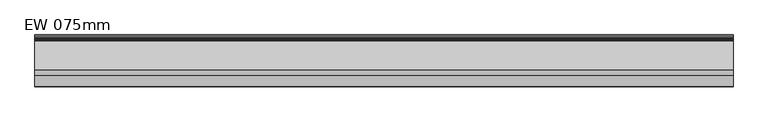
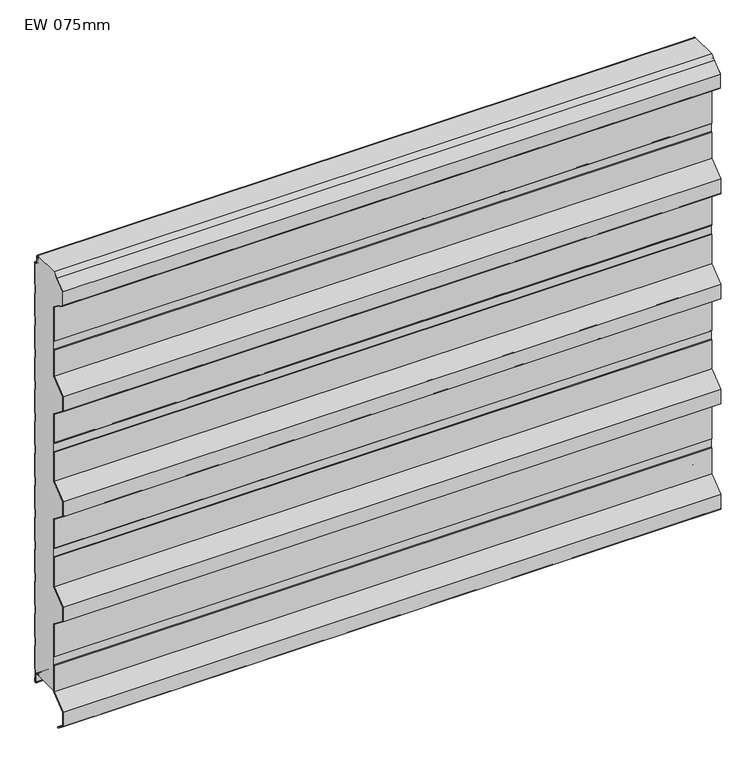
"""IFC4 building model written with IfcOpenShell, lengths in millimetres: plate geometry, KIP-MEX-KC-R19-CP-EW-SL : EW 075mm."""

from ifc_helpers import new_model, si_unit, point, frame, frame_2d, origin, place, context, project, spatial, polyline, circle_curve, trimmed, segment, composite_curve, outline, extrude, source, transform, mapped, element, save
from ifc_brep_helpers import plane_surface, cylinder_surface, revolved_surface, advanced_brep


def ew_075mm_fef6cdc1(model_context):
    return source(origin(), model_context, "Body", "SolidModel", [
        advanced_brep(
        [(-740.0, -85.0327477, 989.051258), (-740.0, -80.6292245, 991.4166419), (-740.0, -81.1011177, 992.2982989), (-740.0, -85.5823669, 989.8911639), (-740.0, -74.7971296, 998.3652789), (-740.0, -11.2514375, 998.3666923), (-740.0, -13.6351997, 996.0840542), (-740.0, -14.1562355, 990.2938452), (-740.0, -13.178913, 990.2059002), (-740.0, -12.6629632, 995.9395891), (-740.0, -10.8760369, 997.3642752), (-740.0, -8.8936988, 995.9342793), (-740.0, -7.4885937, 979.8720443), (-740.0, -4.5000049, 977.1334803), (-740.0, -1.0, 977.1334803), (-740.0, -1.0, 924.1786391), (-740.0, -2.2002307, 922.7930062), (-740.0, -2.2002307, 903.4178399), (-740.0, -1.0, 902.0322069), (-740.0, -1.0, 847.9787915), (-740.0, -2.2002307, 846.5931586), (-740.0, -2.2002307, 827.2179923), (-740.0, -1.0, 825.8323593), (-740.0, -1.0, 771.7789439), (-740.0, -2.2002307, 770.393311), (-740.0, -2.2002307, 751.0181447), (-740.0, -1.0, 749.6325117), (-740.0, -1.0, 695.5790963), (-740.0, -2.2002307, 694.1934634), (-740.0, -2.2002307, 674.8182971), (-740.0, -1.0, 673.4326641), (-740.0, -1.0, 619.3792487), (-740.0, -2.2002307, 617.9936158), (-740.0, -2.2002307, 598.6184495), (-740.0, -1.0, 597.2328165), (-740.0, -1.0, 543.1794011), (-740.0, -2.2002307, 541.7937682), (-740.0, -2.2002307, 522.4186019), (-740.0, -1.0, 521.0329689), (-740.0, -1.0, 466.9795535), (-740.0, -2.2002307, 465.5939206), (-740.0, -2.2002307, 446.2187543), (-740.0, -1.0, 444.8331213), (-740.0, -1.0, 390.7797059), (-740.0, -2.2002307, 389.394073), (-740.0, -2.2002307, 370.0189067), (-740.0, -1.0, 368.6332737), (-740.0, -1.0, 314.5798583), (-740.0, -2.2002307, 313.1942254), (-740.0, -2.2002307, 293.8190591), (-740.0, -1.0, 292.4334261), (-740.0, -1.0, 238.3800107), (-740.0, -2.2002307, 236.9943778), (-740.0, -2.2002307, 217.6192115), (-740.0, -1.0, 216.2335785), (-740.0, -1.0, 162.1801631), (-740.0, -2.2002307, 160.7945302), (-740.0, -2.2002307, 141.4193639), (-740.0, -1.0, 140.0337309), (-740.0, -1.0, 85.9803155), (-740.0, -2.2002307, 84.5946826), (-740.0, -2.2002307, 65.2195163), (-740.0, -1.0, 63.8338833), (-740.0, -1.0, 9.7804679), (-740.0, -2.2002307, 8.394835), (-740.0, -2.2002307, -10.9803313), (-740.0, -0.9999916, -12.365974), (-740.0, -0.9999916, -20.8675386), (-740.0, -2.4999198, -20.8675386), (-740.0, -4.9998241, -18.3676343), (-740.0, -4.9998241, -0.3670493), (-740.0, -7.998082, 2.6333088), (-740.0, -11.5943952, 2.6333088), (-740.0, -13.0725686, 3.8746028), (-740.0, -13.6943971, 7.4169376), (-740.0, -14.6793372, 7.2440392), (-740.0, -14.0575086, 3.7017037), (-740.0, -11.5958694, 1.6333077), (-740.0, -74.0, 1.6333077), (-740.0, -74.0, 62.1559418), (-740.0, -72.9999989, 63.5702249), (-740.0, -72.9999989, 82.7777465), (-740.0, -74.0, 84.1920296), (-740.0, -74.0, 160.6910066), (-740.0, -109.000038, 188.1910365), (-740.0, -109.000038, 222.2190039), (-740.0, -74.0, 249.7190337), (-740.0, -74.0, 319.1871119), (-740.0, -72.9999989, 320.601395), (-740.0, -72.9999989, 339.8089167), (-740.0, -74.0, 341.2231997), (-740.0, -74.0, 410.6912779), (-740.0, -109.000038, 438.1913078), (-740.0, -109.000038, 472.2192752), (-740.0, -74.0, 499.719305), (-740.0, -74.0, 569.1090864), (-740.0, -72.9999989, 570.1732653), (-740.0, -72.9999989, 589.809188), (-740.0, -74.0, 591.2234711), (-740.0, -74.0, 660.6915492), (-740.0, -109.000038, 688.1915791), (-740.0, -109.000038, 722.2195465), (-740.0, -74.0, 749.7195763), (-740.0, -74.0, 812.1567557), (-740.0, -72.9999989, 813.5710388), (-740.0, -72.9999989, 832.7785605), (-740.0, -74.0, 834.1928435), (-740.0, -74.0, 914.6918249), (-740.0, -94.3814311, 930.7058064), (-740.0, -98.199617, 930.7058064), (-740.0, -108.0000369, 938.4061363), (-740.0, -108.0000369, 971.0055308), (740.0, -85.0327477, 989.051258), (740.0, -108.0000369, 971.0055308), (740.0, -108.0000369, 938.4061363), (740.0, -98.199617, 930.7058064), (740.0, -94.3814311, 930.7058064), (740.0, -74.0, 914.6918249), (740.0, -74.0, 834.1928435), (740.0, -72.9999989, 832.7785605), (740.0, -72.9999989, 813.5710388), (740.0, -74.0, 812.1567557), (740.0, -74.0, 749.7195763), (740.0, -109.000038, 722.2195465), (740.0, -109.000038, 688.1915791), (740.0, -74.0, 660.6915492), (740.0, -74.0, 591.2234711), (740.0, -72.9999989, 589.809188), (740.0, -72.9999989, 570.1732653), (740.0, -74.0, 569.1090864), (740.0, -74.0, 499.719305), (740.0, -109.000038, 472.2192752), (740.0, -109.000038, 438.1913078), (740.0, -74.0, 410.6912779), (740.0, -74.0, 341.2231997), (740.0, -72.9999989, 339.8089167), (740.0, -72.9999989, 320.601395), (740.0, -74.0, 319.1871119), (740.0, -74.0, 249.7190337), (740.0, -109.000038, 222.2190039), (740.0, -109.000038, 188.1910365), (740.0, -74.0, 160.6910066), (740.0, -74.0, 84.1920296), (740.0, -72.9999989, 82.7777465), (740.0, -72.9999989, 63.5702249), (740.0, -74.0, 62.1559418), (740.0, -74.0, 1.6333077), (740.0, -11.5958694, 1.6333077), (740.0, -14.0575086, 3.7017037), (740.0, -14.6793372, 7.2440392), (740.0, -13.6943971, 7.4169376), (740.0, -13.0725686, 3.8746028), (740.0, -11.5943952, 2.6333088), (740.0, -7.998082, 2.6333088), (740.0, -4.9998241, -0.3670493), (740.0, -4.9998241, -18.3676343), (740.0, -2.4999198, -20.8675386), (740.0, -0.9999916, -20.8675386), (740.0, -0.9999916, -12.365974), (740.0, -2.2002307, -10.9803313), (740.0, -2.2002307, 8.394835), (740.0, -1.0, 9.7804679), (740.0, -1.0, 63.8338833), (740.0, -2.2002307, 65.2195163), (740.0, -2.2002307, 84.5946826), (740.0, -1.0, 85.9803155), (740.0, -1.0, 140.0337309), (740.0, -2.2002307, 141.4193639), (740.0, -2.2002307, 160.7945302), (740.0, -1.0, 162.1801631), (740.0, -1.0, 216.2335785), (740.0, -2.2002307, 217.6192115), (740.0, -2.2002307, 236.9943778), (740.0, -1.0, 238.3800107), (740.0, -1.0, 292.4334261), (740.0, -2.2002307, 293.8190591), (740.0, -2.2002307, 313.1942254), (740.0, -1.0, 314.5798583), (740.0, -1.0, 368.6332737), (740.0, -2.2002307, 370.0189067), (740.0, -2.2002307, 389.394073), (740.0, -1.0, 390.7797059), (740.0, -1.0, 444.8331213), (740.0, -2.2002307, 446.2187543), (740.0, -2.2002307, 465.5939206), (740.0, -1.0, 466.9795535), (740.0, -1.0, 521.0329689), (740.0, -2.2002307, 522.4186019), (740.0, -2.2002307, 541.7937682), (740.0, -1.0, 543.1794011), (740.0, -1.0, 597.2328165), (740.0, -2.2002307, 598.6184495), (740.0, -2.2002307, 617.9936158), (740.0, -1.0, 619.3792487), (740.0, -1.0, 673.4326641), (740.0, -2.2002307, 674.8182971), (740.0, -2.2002307, 694.1934634), (740.0, -1.0, 695.5790963), (740.0, -1.0, 749.6325117), (740.0, -2.2002307, 751.0181447), (740.0, -2.2002307, 770.393311), (740.0, -1.0, 771.7789439), (740.0, -1.0, 825.8323593), (740.0, -2.2002307, 827.2179923), (740.0, -2.2002307, 846.5931586), (740.0, -1.0, 847.9787915), (740.0, -1.0, 902.0322069), (740.0, -2.2002307, 903.4178399), (740.0, -2.2002307, 922.7930062), (740.0, -1.0, 924.1786391), (740.0, -1.0, 977.1334803), (740.0, -4.5000049, 977.1334803), (740.0, -7.4885937, 979.8720443), (740.0, -8.8936988, 995.9342793), (740.0, -10.8760369, 997.3642752), (740.0, -12.6629632, 995.9395891), (740.0, -13.178913, 990.2059002), (740.0, -14.1562355, 990.2938452), (740.0, -13.6351997, 996.0840542), (740.0, -11.2514375, 998.3666923), (740.0, -74.7971296, 998.3652789), (740.0, -85.5823669, 989.8911639), (740.0, -81.1011177, 992.2982989), (740.0, -80.6292245, 991.4166419)],
        [
            (0, 1),
            (1, 2),
            (2, 3),
            (3, 4),
            (4, 5),
            (5, 6, circle_curve(frame((-740.0, -10.8441969, 995.5554081), z_axis=(1.0, 0.0, 0.0), x_axis=(0.0, -1.0, 0.0)), 2.8406273)),
            (6, 7),
            (7, 8),
            (8, 9),
            (9, 10, circle_curve(frame((-740.0, -10.8991179, 995.560247), z_axis=(-1.0, 0.0, 0.0), x_axis=(0.0, -1.0, 0.0)), 1.8041759)),
            (10, 11, circle_curve(frame((-740.0, -10.6928483, 995.5292107), z_axis=(-1.0, 0.0, 0.0), x_axis=(0.0, -1.0, 0.0)), 1.8441854)),
            (11, 12),
            (12, 13, circle_curve(frame((-740.0, -4.5000049, 980.1334825), z_axis=(1.0, 0.0, 0.0), x_axis=(0.0, -1.0, 0.0)), 3.0000022)),
            (13, 14),
            (14, 15),
            (15, 16),
            (16, 17),
            (17, 18),
            (18, 19),
            (19, 20),
            (20, 21),
            (21, 22),
            (22, 23),
            (23, 24),
            (24, 25),
            (25, 26),
            (26, 27),
            (27, 28),
            (28, 29),
            (29, 30),
            (30, 31),
            (31, 32),
            (32, 33),
            (33, 34),
            (34, 35),
            (35, 36),
            (36, 37),
            (37, 38),
            (38, 39),
            (39, 40),
            (40, 41),
            (41, 42),
            (42, 43),
            (43, 44),
            (44, 45),
            (45, 46),
            (46, 47),
            (47, 48),
            (48, 49),
            (49, 50),
            (50, 51),
            (51, 52),
            (52, 53),
            (53, 54),
            (54, 55),
            (55, 56),
            (56, 57),
            (57, 58),
            (58, 59),
            (59, 60),
            (60, 61),
            (61, 62),
            (62, 63),
            (63, 64),
            (64, 65),
            (65, 66),
            (66, 67),
            (67, 68),
            (68, 69, circle_curve(frame((-740.0, -2.4999198, -18.3676343), z_axis=(-1.0, 0.0, 0.0), x_axis=(0.0, -1.0, 0.0)), 2.4999043)),
            (69, 70),
            (70, 71, circle_curve(frame((-740.0, -8.0001829, -0.3670493), z_axis=(1.0, 0.0, 0.0), x_axis=(0.0, -1.0, 0.0)), 3.0003589)),
            (71, 72),
            (72, 73, circle_curve(frame((-740.0, -11.5943952, 4.1340843), z_axis=(-1.0, 0.0, 0.0), x_axis=(0.0, -1.0, 0.0)), 1.5007755)),
            (73, 74),
            (74, 75),
            (75, 76),
            (76, 77, circle_curve(frame((-740.0, -11.5943948, 4.1340836), z_axis=(1.0, 0.0, 0.0), x_axis=(0.0, -1.0, 0.0)), 2.5007762)),
            (77, 78),
            (78, 79),
            (79, 80),
            (80, 81),
            (81, 82),
            (82, 83),
            (83, 84),
            (84, 85),
            (85, 86),
            (86, 87),
            (87, 88),
            (88, 89),
            (89, 90),
            (90, 91),
            (91, 92),
            (92, 93),
            (93, 94),
            (94, 95),
            (95, 96),
            (96, 97),
            (97, 98),
            (98, 99),
            (99, 100),
            (100, 101),
            (101, 102),
            (102, 103),
            (103, 104),
            (104, 105),
            (105, 106),
            (106, 107),
            (107, 108),
            (108, 109),
            (109, 110),
            (110, 111),
            (111, 0),
            (112, 113),
            (113, 114),
            (114, 115),
            (115, 116),
            (116, 117),
            (117, 118),
            (118, 119),
            (119, 120),
            (120, 121),
            (121, 122),
            (122, 123),
            (123, 124),
            (124, 125),
            (125, 126),
            (126, 127),
            (127, 128),
            (128, 129),
            (129, 130),
            (130, 131),
            (131, 132),
            (132, 133),
            (133, 134),
            (134, 135),
            (135, 136),
            (136, 137),
            (137, 138),
            (138, 139),
            (139, 140),
            (140, 141),
            (141, 142),
            (142, 143),
            (143, 144),
            (144, 145),
            (145, 146),
            (146, 147),
            (147, 148, circle_curve(frame((740.0, -11.5943948, 4.1340836), z_axis=(-1.0, 0.0, 0.0), x_axis=(0.0, -1.0, 0.0)), 2.5007762)),
            (148, 149),
            (149, 150),
            (150, 151),
            (151, 152, circle_curve(frame((740.0, -11.5943952, 4.1340843), z_axis=(1.0, 0.0, 0.0), x_axis=(0.0, -1.0, 0.0)), 1.5007755)),
            (152, 153),
            (153, 154, circle_curve(frame((740.0, -8.0001829, -0.3670493), z_axis=(-1.0, 0.0, 0.0), x_axis=(0.0, -1.0, 0.0)), 3.0003589)),
            (154, 155),
            (155, 156, circle_curve(frame((740.0, -2.4999198, -18.3676343), z_axis=(1.0, 0.0, 0.0), x_axis=(0.0, -1.0, 0.0)), 2.4999043)),
            (156, 157),
            (157, 158),
            (158, 159),
            (159, 160),
            (160, 161),
            (161, 162),
            (162, 163),
            (163, 164),
            (164, 165),
            (165, 166),
            (166, 167),
            (167, 168),
            (168, 169),
            (169, 170),
            (170, 171),
            (171, 172),
            (172, 173),
            (173, 174),
            (174, 175),
            (175, 176),
            (176, 177),
            (177, 178),
            (178, 179),
            (179, 180),
            (180, 181),
            (181, 182),
            (182, 183),
            (183, 184),
            (184, 185),
            (185, 186),
            (186, 187),
            (187, 188),
            (188, 189),
            (189, 190),
            (190, 191),
            (191, 192),
            (192, 193),
            (193, 194),
            (194, 195),
            (195, 196),
            (196, 197),
            (197, 198),
            (198, 199),
            (199, 200),
            (200, 201),
            (201, 202),
            (202, 203),
            (203, 204),
            (204, 205),
            (205, 206),
            (206, 207),
            (207, 208),
            (208, 209),
            (209, 210),
            (210, 211),
            (211, 212, circle_curve(frame((740.0, -4.5000049, 980.1334825), z_axis=(-1.0, 0.0, 0.0), x_axis=(0.0, -1.0, 0.0)), 3.0000022)),
            (212, 213),
            (213, 214, circle_curve(frame((740.0, -10.6928483, 995.5292107), z_axis=(1.0, 0.0, 0.0), x_axis=(0.0, -1.0, 0.0)), 1.8441854)),
            (214, 215, circle_curve(frame((740.0, -10.8991179, 995.560247), z_axis=(1.0, 0.0, 0.0), x_axis=(0.0, -1.0, 0.0)), 1.8041759)),
            (215, 216),
            (216, 217),
            (217, 218),
            (218, 219, circle_curve(frame((740.0, -10.8441969, 995.5554081), z_axis=(-1.0, 0.0, 0.0), x_axis=(0.0, -1.0, 0.0)), 2.8406273)),
            (219, 220),
            (220, 221),
            (221, 222),
            (222, 223),
            (223, 112),
            (0, 112),
            (223, 1),
            (111, 113),
            (110, 114),
            (109, 115),
            (108, 116),
            (107, 117),
            (106, 118),
            (105, 119),
            (104, 120),
            (103, 121),
            (102, 122),
            (101, 123),
            (100, 124),
            (99, 125),
            (98, 126),
            (97, 127),
            (96, 128),
            (95, 129),
            (94, 130),
            (93, 131),
            (92, 132),
            (91, 133),
            (90, 134),
            (89, 135),
            (88, 136),
            (87, 137),
            (86, 138),
            (85, 139),
            (84, 140),
            (83, 141),
            (82, 142),
            (81, 143),
            (80, 144),
            (79, 145),
            (78, 146),
            (2, 222),
            (221, 3),
            (220, 4),
            (219, 5),
            (77, 147),
            (73, 151),
            (150, 74),
            (72, 152),
            (71, 153),
            (70, 154),
            (69, 155),
            (68, 156),
            (67, 157),
            (13, 211),
            (210, 14),
            (12, 212),
            (11, 213),
            (10, 214),
            (9, 215),
            (8, 216),
            (7, 217),
            (6, 218),
            (76, 148),
            (75, 149),
            (66, 158),
            (65, 159),
            (64, 160),
            (63, 161),
            (62, 162),
            (61, 163),
            (60, 164),
            (59, 165),
            (58, 166),
            (57, 167),
            (56, 168),
            (55, 169),
            (54, 170),
            (53, 171),
            (52, 172),
            (51, 173),
            (50, 174),
            (49, 175),
            (48, 176),
            (47, 177),
            (46, 178),
            (45, 179),
            (44, 180),
            (43, 181),
            (42, 182),
            (41, 183),
            (40, 184),
            (39, 185),
            (38, 186),
            (37, 187),
            (36, 188),
            (35, 189),
            (34, 190),
            (33, 191),
            (32, 192),
            (31, 193),
            (30, 194),
            (29, 195),
            (28, 196),
            (27, 197),
            (26, 198),
            (25, 199),
            (24, 200),
            (23, 201),
            (22, 202),
            (21, 203),
            (20, 204),
            (19, 205),
            (18, 206),
            (17, 207),
            (16, 208),
            (15, 209),
        ],
        [
            plane_surface(frame((-740.0, -74.0, 500.0), z_axis=(-1.0, 0.0, 0.0), x_axis=(0.0, -1.0, 0.0))),
            plane_surface(frame((740.0, -74.0, 500.0), z_axis=(1.0, 0.0, 0.0), x_axis=(0.0, -1.0, 0.0))),
            plane_surface(frame((-740.0, -80.6292245, 991.4166419), z_axis=(0.0, -0.4732087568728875, 0.8809503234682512), x_axis=(1.0, 0.0, 0.0))),
            plane_surface(frame((-740.0, -85.0327477, 989.051258), z_axis=(0.0, -0.6178215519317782, 0.7863183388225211), x_axis=(1.0, 0.0, 0.0))),
            plane_surface(frame((-740.0, -108.0000369, 971.0055308), z_axis=(0.0, -1.0, 0.0), x_axis=(1.0, 0.0, 0.0))),
            plane_surface(frame((-740.0, -108.0000369, 938.4061363), z_axis=(0.0, -0.6178215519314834, -0.7863183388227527), x_axis=(1.0, 0.0, 0.0))),
            plane_surface(frame((-740.0, -98.199617, 930.7058064), z_axis=(0.0, 0.0, -1.0), x_axis=(1.0, 0.0, 0.0))),
            plane_surface(frame((-740.0, -94.3814311, 930.7058064), z_axis=(0.0, -0.6178215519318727, -0.786318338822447), x_axis=(1.0, 0.0, 0.0))),
            plane_surface(frame((-740.0, -74.0, 914.6918249), z_axis=(0.0, -1.0, 0.0), x_axis=(1.0, 0.0, 0.0))),
            plane_surface(frame((-740.0, -74.0, 834.1928435), z_axis=(0.0, -0.8165096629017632, -0.577331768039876), x_axis=(1.0, 0.0, 0.0))),
            plane_surface(frame((-740.0, -72.9999989, 832.7785605), z_axis=(0.0, -1.0, 0.0), x_axis=(1.0, 0.0, 0.0))),
            plane_surface(frame((-740.0, -72.9999989, 813.5710388), z_axis=(0.0, -0.816509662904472, 0.5773317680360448), x_axis=(1.0, 0.0, 0.0))),
            plane_surface(frame((-740.0, -74.0, 812.1567557), z_axis=(0.0, -1.0, 0.0), x_axis=(1.0, 0.0, 0.0))),
            plane_surface(frame((-740.0, -74.0, 749.7195763), z_axis=(0.0, -0.6178215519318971, 0.7863183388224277), x_axis=(1.0, 0.0, 0.0))),
            plane_surface(frame((-740.0, -109.000038, 722.2195465), z_axis=(0.0, -1.0, 0.0), x_axis=(1.0, 0.0, 0.0))),
            plane_surface(frame((-740.0, -109.000038, 688.1915791), z_axis=(0.0, -0.6178215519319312, -0.7863183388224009), x_axis=(1.0, 0.0, 0.0))),
            plane_surface(frame((-740.0, -74.0, 660.6915492), z_axis=(0.0, -1.0, 0.0), x_axis=(1.0, 0.0, 0.0))),
            plane_surface(frame((-740.0, -74.0, 591.2234711), z_axis=(0.0, -0.8165096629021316, -0.577331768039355), x_axis=(1.0, 0.0, 0.0))),
            plane_surface(frame((-740.0, -72.9999989, 589.809188), z_axis=(0.0, -1.0, 0.0), x_axis=(1.0, 0.0, 0.0))),
            plane_surface(frame((-740.0, -72.9999989, 570.1732653), z_axis=(0.0, -0.7287394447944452, 0.6847910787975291), x_axis=(1.0, 0.0, 0.0))),
            plane_surface(frame((-740.0, -74.0, 569.1090864), z_axis=(0.0, -1.0, 0.0), x_axis=(1.0, 0.0, 0.0))),
            plane_surface(frame((-740.0, -74.0, 499.719305), z_axis=(0.0, -0.6178215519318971, 0.7863183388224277), x_axis=(1.0, 0.0, 0.0))),
            plane_surface(frame((-740.0, -109.000038, 472.2192752), z_axis=(0.0, -1.0, 0.0), x_axis=(1.0, 0.0, 0.0))),
            plane_surface(frame((-740.0, -109.000038, 438.1913078), z_axis=(0.0, -0.6178215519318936, -0.7863183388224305), x_axis=(1.0, 0.0, 0.0))),
            plane_surface(frame((-740.0, -74.0, 410.6912779), z_axis=(0.0, -1.0, 0.0), x_axis=(1.0, 0.0, 0.0))),
            plane_surface(frame((-740.0, -74.0, 341.2231997), z_axis=(0.0, -0.8165096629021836, -0.5773317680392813), x_axis=(1.0, 0.0, 0.0))),
            plane_surface(frame((-740.0, -72.9999989, 339.8089167), z_axis=(0.0, -1.0, 0.0), x_axis=(1.0, 0.0, 0.0))),
            plane_surface(frame((-740.0, -72.9999989, 320.601395), z_axis=(0.0, -0.8165096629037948, 0.5773317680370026), x_axis=(1.0, 0.0, 0.0))),
            plane_surface(frame((-740.0, -74.0, 319.1871119), z_axis=(0.0, -1.0, 0.0), x_axis=(1.0, 0.0, 0.0))),
            plane_surface(frame((-740.0, -74.0, 249.7190337), z_axis=(0.0, -0.6178215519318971, 0.7863183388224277), x_axis=(1.0, 0.0, 0.0))),
            plane_surface(frame((-740.0, -109.000038, 222.2190039), z_axis=(0.0, -1.0, 0.0), x_axis=(1.0, 0.0, 0.0))),
            plane_surface(frame((-740.0, -109.000038, 188.1910365), z_axis=(0.0, -0.6178215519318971, -0.7863183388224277), x_axis=(1.0, 0.0, 0.0))),
            plane_surface(frame((-740.0, -74.0, 160.6910066), z_axis=(0.0, -1.0, 0.0), x_axis=(1.0, 0.0, 0.0))),
            plane_surface(frame((-740.0, -74.0, 84.1920296), z_axis=(0.0, -0.8165096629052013, -0.5773317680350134), x_axis=(1.0, 0.0, 0.0))),
            plane_surface(frame((-740.0, -72.9999989, 82.7777465), z_axis=(0.0, -1.0, 0.0), x_axis=(1.0, 0.0, 0.0))),
            plane_surface(frame((-740.0, -72.9999989, 63.5702249), z_axis=(0.0, -0.8165096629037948, 0.5773317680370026), x_axis=(1.0, 0.0, 0.0))),
            plane_surface(frame((-740.0, -74.0, 62.1559418), z_axis=(0.0, -1.0, 0.0), x_axis=(1.0, 0.0, 0.0))),
            plane_surface(frame((-740.0, -85.5823669, 989.8911639), z_axis=(0.0, 0.47320875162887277, -0.8809503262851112), x_axis=(1.0, 0.0, 0.0))),
            plane_surface(frame((-740.0, -81.1011177, 992.2982989), z_axis=(0.0, -0.8816559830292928, -0.47189270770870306), x_axis=(1.0, 0.0, 0.0))),
            plane_surface(frame((-740.0, -74.7971296, 998.3652789), z_axis=(0.0, -0.617821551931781, 0.786318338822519), x_axis=(1.0, 0.0, 0.0))),
            plane_surface(frame((-740.0, -69.8065083, 998.3652789), z_axis=(0.0, 0.0, 1.0), x_axis=(1.0, 0.0, 0.0))),
            plane_surface(frame((-740.0, -74.0, 1.6333077), z_axis=(0.0, 0.0, -1.0), x_axis=(1.0, 0.0, 0.0))),
            plane_surface(frame((-740.0, -13.6943971, 7.4169376), z_axis=(0.0, -0.9849396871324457, -0.17289827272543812), x_axis=(1.0, 0.0, 0.0))),
            cylinder_surface(frame((-740.0, -11.5943952, 4.1340843), z_axis=(-1.0, 0.0, 0.0), x_axis=(0.0, -1.0, 0.0)), 1.5007755),
            plane_surface(frame((-740.0, -11.5943952, 2.6333088), z_axis=(0.0, 0.0, -1.0), x_axis=(1.0, 0.0, 0.0))),
            revolved_surface(polyline([(740.0, -11.0005418, -0.3670493), (-740.0, -11.0005418, -0.3670493)]), (-740.0, -8.0001829, -0.3670493), (1.0, 0.0, 0.0)),
            plane_surface(frame((-740.0, -4.9998241, -0.3670493), z_axis=(0.0, -1.0, 0.0), x_axis=(1.0, 0.0, 0.0))),
            cylinder_surface(frame((-740.0, -2.4999198, -18.3676343), z_axis=(-1.0, 0.0, 0.0), x_axis=(0.0, -1.0, 0.0)), 2.4999043),
            plane_surface(frame((-740.0, -2.4999198, -20.8675386), z_axis=(0.0, 0.0, -1.0), x_axis=(1.0, 0.0, 0.0))),
            plane_surface(frame((-740.0, -1.0, 977.1334803), z_axis=(0.0, 0.0, 1.0), x_axis=(1.0, 0.0, 0.0))),
            revolved_surface(polyline([(740.0, -7.5000071, 980.1334825), (-740.0, -7.5000071, 980.1334825)]), (-740.0, -4.5000049, 980.1334825), (1.0, 0.0, 0.0)),
            plane_surface(frame((-740.0, -7.4885937, 979.8720443), z_axis=(0.0, 0.9961955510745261, 0.08714599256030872), x_axis=(1.0, 0.0, 0.0))),
            cylinder_surface(frame((-740.0, -10.6928483, 995.5292107), z_axis=(-1.0, 0.0, 0.0), x_axis=(0.0, -1.0, 0.0)), 1.8441854),
            cylinder_surface(frame((-740.0, -10.8991179, 995.560247), z_axis=(-1.0, 0.0, 0.0), x_axis=(0.0, -1.0, 0.0)), 1.8041759),
            plane_surface(frame((-740.0, -12.6629632, 995.9395891), z_axis=(0.0, -0.9959757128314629, 0.08962354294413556), x_axis=(1.0, 0.0, 0.0))),
            plane_surface(frame((-740.0, -13.178913, 990.2059002), z_axis=(0.0, 0.0896235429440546, 0.9959757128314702), x_axis=(1.0, 0.0, 0.0))),
            plane_surface(frame((-740.0, -14.1562355, 990.2938452), z_axis=(0.0, 0.9959757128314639, -0.08962354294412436), x_axis=(1.0, 0.0, 0.0))),
            revolved_surface(polyline([(740.0, -13.6848242, 995.5554081), (-740.0, -13.6848242, 995.5554081)]), (-740.0, -10.8441969, 995.5554081), (1.0, 0.0, 0.0)),
            revolved_surface(polyline([(740.0, -14.095171, 4.1340836), (-740.0, -14.095171, 4.1340836)]), (-740.0, -11.5943948, 4.1340836), (1.0, 0.0, 0.0)),
            plane_surface(frame((-740.0, -14.0575086, 3.7017037), z_axis=(0.0, 0.9849396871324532, 0.17289827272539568), x_axis=(1.0, 0.0, 0.0))),
            plane_surface(frame((-740.0, -14.6793372, 7.2440392), z_axis=(0.0, 0.17289827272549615, -0.9849396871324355), x_axis=(1.0, 0.0, 0.0))),
            plane_surface(frame((-740.0, -0.9999916, -20.8675386), z_axis=(0.0, 1.0, 0.0), x_axis=(1.0, 0.0, 0.0))),
            plane_surface(frame((-740.0, -0.9999916, -12.365974), z_axis=(0.0, 0.7558648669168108, 0.6547276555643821), x_axis=(1.0, 0.0, 0.0))),
            plane_surface(frame((-740.0, -2.2002307, -10.9803313), z_axis=(0.0, 1.0, 0.0), x_axis=(1.0, 0.0, 0.0))),
            plane_surface(frame((-740.0, -2.2002307, 8.394835), z_axis=(0.0, 0.7558648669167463, -0.6547276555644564), x_axis=(1.0, 0.0, 0.0))),
            plane_surface(frame((-740.0, -1.0, 9.7804679), z_axis=(0.0, 1.0, 0.0), x_axis=(1.0, 0.0, 0.0))),
            plane_surface(frame((-740.0, -1.0, 63.8338833), z_axis=(0.0, 0.7558648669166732, 0.6547276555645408), x_axis=(1.0, 0.0, 0.0))),
            plane_surface(frame((-740.0, -2.2002307, 65.2195163), z_axis=(0.0, 1.0, 0.0), x_axis=(1.0, 0.0, 0.0))),
            plane_surface(frame((-740.0, -2.2002307, 84.5946826), z_axis=(0.0, 0.7558648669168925, -0.6547276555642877), x_axis=(1.0, 0.0, 0.0))),
            plane_surface(frame((-740.0, -1.0, 85.9803155), z_axis=(0.0, 1.0, 0.0), x_axis=(1.0, 0.0, 0.0))),
            plane_surface(frame((-740.0, -1.0, 140.0337309), z_axis=(0.0, 0.7558648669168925, 0.6547276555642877), x_axis=(1.0, 0.0, 0.0))),
            plane_surface(frame((-740.0, -2.2002307, 141.4193639), z_axis=(0.0, 1.0, 0.0), x_axis=(1.0, 0.0, 0.0))),
            plane_surface(frame((-740.0, -2.2002307, 160.7945302), z_axis=(0.0, 0.7558648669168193, -0.6547276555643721), x_axis=(1.0, 0.0, 0.0))),
            plane_surface(frame((-740.0, -1.0, 162.1801631), z_axis=(0.0, 1.0, 0.0), x_axis=(1.0, 0.0, 0.0))),
            plane_surface(frame((-740.0, -1.0, 216.2335785), z_axis=(0.0, 0.7558648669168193, 0.6547276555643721), x_axis=(1.0, 0.0, 0.0))),
            plane_surface(frame((-740.0, -2.2002307, 217.6192115), z_axis=(0.0, 1.0, 0.0), x_axis=(1.0, 0.0, 0.0))),
            plane_surface(frame((-740.0, -2.2002307, 236.9943778), z_axis=(0.0, 0.7558648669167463, -0.6547276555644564), x_axis=(1.0, 0.0, 0.0))),
            plane_surface(frame((-740.0, -1.0, 238.3800107), z_axis=(0.0, 1.0, 0.0), x_axis=(1.0, 0.0, 0.0))),
            plane_surface(frame((-740.0, -1.0, 292.4334261), z_axis=(0.0, 0.7558648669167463, 0.6547276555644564), x_axis=(1.0, 0.0, 0.0))),
            plane_surface(frame((-740.0, -2.2002307, 293.8190591), z_axis=(0.0, 1.0, 0.0), x_axis=(1.0, 0.0, 0.0))),
            plane_surface(frame((-740.0, -2.2002307, 313.1942254), z_axis=(0.0, 0.7558648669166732, -0.6547276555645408), x_axis=(1.0, 0.0, 0.0))),
            plane_surface(frame((-740.0, -1.0, 314.5798583), z_axis=(0.0, 1.0, 0.0), x_axis=(1.0, 0.0, 0.0))),
            plane_surface(frame((-740.0, -1.0, 368.6332737), z_axis=(0.0, 0.7558648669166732, 0.6547276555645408), x_axis=(1.0, 0.0, 0.0))),
            plane_surface(frame((-740.0, -2.2002307, 370.0189067), z_axis=(0.0, 1.0, 0.0), x_axis=(1.0, 0.0, 0.0))),
            plane_surface(frame((-740.0, -2.2002307, 389.394073), z_axis=(0.0, 0.755864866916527, -0.6547276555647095), x_axis=(1.0, 0.0, 0.0))),
            plane_surface(frame((-740.0, -1.0, 390.7797059), z_axis=(0.0, 1.0, 0.0), x_axis=(1.0, 0.0, 0.0))),
            plane_surface(frame((-740.0, -1.0, 444.8331213), z_axis=(0.0, 0.755864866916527, 0.6547276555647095), x_axis=(1.0, 0.0, 0.0))),
            plane_surface(frame((-740.0, -2.2002307, 446.2187543), z_axis=(0.0, 1.0, 0.0), x_axis=(1.0, 0.0, 0.0))),
            plane_surface(frame((-740.0, -2.2002307, 465.5939206), z_axis=(0.0, 0.755864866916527, -0.6547276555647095), x_axis=(1.0, 0.0, 0.0))),
            plane_surface(frame((-740.0, -1.0, 466.9795535), z_axis=(0.0, 1.0, 0.0), x_axis=(1.0, 0.0, 0.0))),
            plane_surface(frame((-740.0, -1.0, 521.0329689), z_axis=(0.0, 0.755864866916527, 0.6547276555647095), x_axis=(1.0, 0.0, 0.0))),
            plane_surface(frame((-740.0, -2.2002307, 522.4186019), z_axis=(0.0, 1.0, 0.0), x_axis=(1.0, 0.0, 0.0))),
            plane_surface(frame((-740.0, -2.2002307, 541.7937682), z_axis=(0.0, 0.7558648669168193, -0.6547276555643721), x_axis=(1.0, 0.0, 0.0))),
            plane_surface(frame((-740.0, -1.0, 543.1794011), z_axis=(0.0, 1.0, 0.0), x_axis=(1.0, 0.0, 0.0))),
            plane_surface(frame((-740.0, -1.0, 597.2328165), z_axis=(0.0, 0.7558648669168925, 0.6547276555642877), x_axis=(1.0, 0.0, 0.0))),
            plane_surface(frame((-740.0, -2.2002307, 598.6184495), z_axis=(0.0, 1.0, 0.0), x_axis=(1.0, 0.0, 0.0))),
            plane_surface(frame((-740.0, -2.2002307, 617.9936158), z_axis=(0.0, 0.7558648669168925, -0.6547276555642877), x_axis=(1.0, 0.0, 0.0))),
            plane_surface(frame((-740.0, -1.0, 619.3792487), z_axis=(0.0, 1.0, 0.0), x_axis=(1.0, 0.0, 0.0))),
            plane_surface(frame((-740.0, -1.0, 673.4326641), z_axis=(0.0, 0.7558648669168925, 0.6547276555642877), x_axis=(1.0, 0.0, 0.0))),
            plane_surface(frame((-740.0, -2.2002307, 674.8182971), z_axis=(0.0, 1.0, 0.0), x_axis=(1.0, 0.0, 0.0))),
            plane_surface(frame((-740.0, -2.2002307, 694.1934634), z_axis=(0.0, 0.7558648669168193, -0.6547276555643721), x_axis=(1.0, 0.0, 0.0))),
            plane_surface(frame((-740.0, -1.0, 695.5790963), z_axis=(0.0, 1.0, 0.0), x_axis=(1.0, 0.0, 0.0))),
            plane_surface(frame((-740.0, -1.0, 749.6325117), z_axis=(0.0, 0.7558648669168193, 0.6547276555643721), x_axis=(1.0, 0.0, 0.0))),
            plane_surface(frame((-740.0, -2.2002307, 751.0181447), z_axis=(0.0, 1.0, 0.0), x_axis=(1.0, 0.0, 0.0))),
            plane_surface(frame((-740.0, -2.2002307, 770.393311), z_axis=(0.0, 0.7558648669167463, -0.6547276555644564), x_axis=(1.0, 0.0, 0.0))),
            plane_surface(frame((-740.0, -1.0, 771.7789439), z_axis=(0.0, 1.0, 0.0), x_axis=(1.0, 0.0, 0.0))),
            plane_surface(frame((-740.0, -1.0, 825.8323593), z_axis=(0.0, 0.7558648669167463, 0.6547276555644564), x_axis=(1.0, 0.0, 0.0))),
            plane_surface(frame((-740.0, -2.2002307, 827.2179923), z_axis=(0.0, 1.0, 0.0), x_axis=(1.0, 0.0, 0.0))),
            plane_surface(frame((-740.0, -2.2002307, 846.5931586), z_axis=(0.0, 0.7558648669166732, -0.6547276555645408), x_axis=(1.0, 0.0, 0.0))),
            plane_surface(frame((-740.0, -1.0, 847.9787915), z_axis=(0.0, 1.0, 0.0), x_axis=(1.0, 0.0, 0.0))),
            plane_surface(frame((-740.0, -1.0, 902.0322069), z_axis=(0.0, 0.7558648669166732, 0.6547276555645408), x_axis=(1.0, 0.0, 0.0))),
            plane_surface(frame((-740.0, -2.2002307, 903.4178399), z_axis=(0.0, 1.0, 0.0), x_axis=(1.0, 0.0, 0.0))),
            plane_surface(frame((-740.0, -2.2002307, 922.7930062), z_axis=(0.0, 0.7558648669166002, -0.6547276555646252), x_axis=(1.0, 0.0, 0.0))),
            plane_surface(frame((-740.0, -1.0, 924.1786391), z_axis=(0.0, 1.0, 0.0), x_axis=(1.0, 0.0, 0.0))),
        ],
        [
            (0, [[1, 2, 3, 4, 5, 6, 7, 8, 9, 10, 11, 12, 13, 14, 15, 16, 17, 18, 19, 20, 21, 22, 23, 24, 25, 26, 27, 28, 29, 30, 31, 32, 33, 34, 35, 36, 37, 38, 39, 40, 41, 42, 43, 44, 45, 46, 47, 48, 49, 50, 51, 52, 53, 54, 55, 56, 57, 58, 59, 60, 61, 62, 63, 64, 65, 66, 67, 68, 69, 70, 71, 72, 73, 74, 75, 76, 77, 78, 79, 80, 81, 82, 83, 84, 85, 86, 87, 88, 89, 90, 91, 92, 93, 94, 95, 96, 97, 98, 99, 100, 101, 102, 103, 104, 105, 106, 107, 108, 109, 110, 111, 112]]),
            (1, [[113, 114, 115, 116, 117, 118, 119, 120, 121, 122, 123, 124, 125, 126, 127, 128, 129, 130, 131, 132, 133, 134, 135, 136, 137, 138, 139, 140, 141, 142, 143, 144, 145, 146, 147, 148, 149, 150, 151, 152, 153, 154, 155, 156, 157, 158, 159, 160, 161, 162, 163, 164, 165, 166, 167, 168, 169, 170, 171, 172, 173, 174, 175, 176, 177, 178, 179, 180, 181, 182, 183, 184, 185, 186, 187, 188, 189, 190, 191, 192, 193, 194, 195, 196, 197, 198, 199, 200, 201, 202, 203, 204, 205, 206, 207, 208, 209, 210, 211, 212, 213, 214, 215, 216, 217, 218, 219, 220, 221, 222, 223, 224]]),
            (2, [[225, -224, 226, -1]]),
            (3, [[227, -113, -225, -112]]),
            (4, [[228, -114, -227, -111]]),
            (5, [[229, -115, -228, -110]]),
            (6, [[230, -116, -229, -109]]),
            (7, [[231, -117, -230, -108]]),
            (8, [[232, -118, -231, -107]]),
            (9, [[233, -119, -232, -106]]),
            (10, [[234, -120, -233, -105]]),
            (11, [[235, -121, -234, -104]]),
            (12, [[236, -122, -235, -103]]),
            (13, [[237, -123, -236, -102]]),
            (14, [[238, -124, -237, -101]]),
            (15, [[239, -125, -238, -100]]),
            (16, [[240, -126, -239, -99]]),
            (17, [[241, -127, -240, -98]]),
            (18, [[242, -128, -241, -97]]),
            (19, [[243, -129, -242, -96]]),
            (20, [[244, -130, -243, -95]]),
            (21, [[245, -131, -244, -94]]),
            (22, [[246, -132, -245, -93]]),
            (23, [[247, -133, -246, -92]]),
            (24, [[248, -134, -247, -91]]),
            (25, [[249, -135, -248, -90]]),
            (26, [[250, -136, -249, -89]]),
            (27, [[251, -137, -250, -88]]),
            (28, [[252, -138, -251, -87]]),
            (29, [[253, -139, -252, -86]]),
            (30, [[254, -140, -253, -85]]),
            (31, [[255, -141, -254, -84]]),
            (32, [[256, -142, -255, -83]]),
            (33, [[257, -143, -256, -82]]),
            (34, [[258, -144, -257, -81]]),
            (35, [[259, -145, -258, -80]]),
            (36, [[260, -146, -259, -79]]),
            (37, [[261, -222, 262, -3]]),
            (38, [[-226, -223, -261, -2]]),
            (39, [[-262, -221, 263, -4]]),
            (40, [[-263, -220, 264, -5]]),
            (41, [[265, -147, -260, -78]]),
            (42, [[266, -151, 267, -74]]),
            (43, [[268, -152, -266, -73]]),
            (44, [[269, -153, -268, -72]]),
            (45, [[270, -154, -269, -71]]),
            (46, [[271, -155, -270, -70]]),
            (47, [[272, -156, -271, -69]]),
            (48, [[273, -157, -272, -68]]),
            (49, [[274, -211, 275, -14]]),
            (50, [[276, -212, -274, -13]]),
            (51, [[277, -213, -276, -12]]),
            (52, [[278, -214, -277, -11]]),
            (53, [[279, -215, -278, -10]]),
            (54, [[280, -216, -279, -9]]),
            (55, [[281, -217, -280, -8]]),
            (56, [[282, -218, -281, -7]]),
            (57, [[-264, -219, -282, -6]]),
            (58, [[283, -148, -265, -77]]),
            (59, [[284, -149, -283, -76]]),
            (60, [[-267, -150, -284, -75]]),
            (61, [[285, -158, -273, -67]]),
            (62, [[286, -159, -285, -66]]),
            (63, [[287, -160, -286, -65]]),
            (64, [[288, -161, -287, -64]]),
            (65, [[289, -162, -288, -63]]),
            (66, [[290, -163, -289, -62]]),
            (67, [[291, -164, -290, -61]]),
            (68, [[292, -165, -291, -60]]),
            (69, [[293, -166, -292, -59]]),
            (70, [[294, -167, -293, -58]]),
            (71, [[295, -168, -294, -57]]),
            (72, [[296, -169, -295, -56]]),
            (73, [[297, -170, -296, -55]]),
            (74, [[298, -171, -297, -54]]),
            (75, [[299, -172, -298, -53]]),
            (76, [[300, -173, -299, -52]]),
            (77, [[301, -174, -300, -51]]),
            (78, [[302, -175, -301, -50]]),
            (79, [[303, -176, -302, -49]]),
            (80, [[304, -177, -303, -48]]),
            (81, [[305, -178, -304, -47]]),
            (82, [[306, -179, -305, -46]]),
            (83, [[307, -180, -306, -45]]),
            (84, [[308, -181, -307, -44]]),
            (85, [[309, -182, -308, -43]]),
            (86, [[310, -183, -309, -42]]),
            (87, [[311, -184, -310, -41]]),
            (88, [[312, -185, -311, -40]]),
            (89, [[313, -186, -312, -39]]),
            (90, [[314, -187, -313, -38]]),
            (91, [[315, -188, -314, -37]]),
            (92, [[316, -189, -315, -36]]),
            (93, [[317, -190, -316, -35]]),
            (94, [[318, -191, -317, -34]]),
            (95, [[319, -192, -318, -33]]),
            (96, [[320, -193, -319, -32]]),
            (97, [[321, -194, -320, -31]]),
            (98, [[322, -195, -321, -30]]),
            (99, [[323, -196, -322, -29]]),
            (100, [[324, -197, -323, -28]]),
            (101, [[325, -198, -324, -27]]),
            (102, [[326, -199, -325, -26]]),
            (103, [[327, -200, -326, -25]]),
            (104, [[328, -201, -327, -24]]),
            (105, [[329, -202, -328, -23]]),
            (106, [[330, -203, -329, -22]]),
            (107, [[331, -204, -330, -21]]),
            (108, [[332, -205, -331, -20]]),
            (109, [[333, -206, -332, -19]]),
            (110, [[334, -207, -333, -18]]),
            (111, [[335, -208, -334, -17]]),
            (112, [[336, -209, -335, -16]]),
            (113, [[-275, -210, -336, -15]]),
        ],
    ),
        extrude(outline(composite_curve([segment(trimmed(circle_curve(frame_2d((-1.4999961, 976.6334814)), 1.4999961), [point((-1.4999961, 978.1334775))], [point((0.0, 976.6334814))], False, "CARTESIAN"), True, "CONTINUOUS"), segment(polyline([(0.0, 976.6334814), (0.0, 924.3277902)]), True, "CONTINUOUS"), segment(trimmed(circle_curve(frame_2d((-1.3999972, 924.3277902)), 1.3999972), [point((0.0, 924.3277902))], [point((-0.3417885, 923.4111733))], False, "CARTESIAN"), True, "CONTINUOUS"), segment(polyline([(-0.3417885, 923.4111733), (-1.2002307, 922.4201257), (-1.2002307, 903.7907203), (-0.3417885, 902.7996726)]), True, "CONTINUOUS"), segment(trimmed(circle_curve(frame_2d((-1.3999972, 901.8830557)), 1.3999972), [point((-0.3417885, 902.7996726))], [point((0.0, 901.8830557))], False, "CARTESIAN"), True, "CONTINUOUS"), segment(polyline([(0.0, 901.8830557), (0.0, 848.1279426)]), True, "CONTINUOUS"), segment(trimmed(circle_curve(frame_2d((-1.3999972, 848.1279426)), 1.3999972), [point((0.0, 848.1279426))], [point((-0.3417885, 847.2113257))], False, "CARTESIAN"), True, "CONTINUOUS"), segment(polyline([(-0.3417885, 847.2113257), (-1.2002307, 846.2202781), (-1.2002307, 827.5908727), (-0.3417885, 826.599825)]), True, "CONTINUOUS"), segment(trimmed(circle_curve(frame_2d((-1.3999972, 825.6832081)), 1.3999972), [point((-0.3417885, 826.599825))], [point((0.0, 825.6832081))], False, "CARTESIAN"), True, "CONTINUOUS"), segment(polyline([(0.0, 825.6832081), (0.0, 771.928095)]), True, "CONTINUOUS"), segment(trimmed(circle_curve(frame_2d((-1.3999972, 771.928095)), 1.3999972), [point((0.0, 771.928095))], [point((-0.3417885, 771.0114781))], False, "CARTESIAN"), True, "CONTINUOUS"), segment(polyline([(-0.3417885, 771.0114781), (-1.2002307, 770.0204305), (-1.2002307, 751.3910251), (-0.3417885, 750.3999774)]), True, "CONTINUOUS"), segment(trimmed(circle_curve(frame_2d((-1.3999972, 749.4833605)), 1.3999972), [point((-0.3417885, 750.3999774))], [point((0.0, 749.4833605))], False, "CARTESIAN"), True, "CONTINUOUS"), segment(polyline([(0.0, 749.4833605), (0.0, 695.7282474)]), True, "CONTINUOUS"), segment(trimmed(circle_curve(frame_2d((-1.3999972, 695.7282474)), 1.3999972), [point((0.0, 695.7282474))], [point((-0.3417885, 694.8116305))], False, "CARTESIAN"), True, "CONTINUOUS"), segment(polyline([(-0.3417885, 694.8116305), (-1.2002307, 693.8205829), (-1.2002307, 675.1911775), (-0.3417885, 674.2001298)]), True, "CONTINUOUS"), segment(trimmed(circle_curve(frame_2d((-1.3999972, 673.2835129)), 1.3999972), [point((-0.3417885, 674.2001298))], [point((0.0, 673.2835129))], False, "CARTESIAN"), True, "CONTINUOUS"), segment(polyline([(0.0, 673.2835129), (0.0, 619.5283998)]), True, "CONTINUOUS"), segment(trimmed(circle_curve(frame_2d((-1.3999972, 619.5283998)), 1.3999972), [point((0.0, 619.5283998))], [point((-0.3417885, 618.6117829))], False, "CARTESIAN"), True, "CONTINUOUS"), segment(polyline([(-0.3417885, 618.6117829), (-1.2002307, 617.6207353), (-1.2002307, 598.9913299), (-0.3417885, 598.0002822)]), True, "CONTINUOUS"), segment(trimmed(circle_curve(frame_2d((-1.3999972, 597.0836653)), 1.3999972), [point((-0.3417885, 598.0002822))], [point((0.0, 597.0836653))], False, "CARTESIAN"), True, "CONTINUOUS"), segment(polyline([(0.0, 597.0836653), (0.0, 543.3285522)]), True, "CONTINUOUS"), segment(trimmed(circle_curve(frame_2d((-1.3999972, 543.3285522)), 1.3999972), [point((0.0, 543.3285522))], [point((-0.3417885, 542.4119353))], False, "CARTESIAN"), True, "CONTINUOUS"), segment(polyline([(-0.3417885, 542.4119353), (-1.2002307, 541.4208877), (-1.2002307, 522.7914823), (-0.3417885, 521.8004346)]), True, "CONTINUOUS"), segment(trimmed(circle_curve(frame_2d((-1.3999972, 520.8838177)), 1.3999972), [point((-0.3417885, 521.8004346))], [point((0.0, 520.8838177))], False, "CARTESIAN"), True, "CONTINUOUS"), segment(polyline([(0.0, 520.8838177), (0.0, 467.1287046)]), True, "CONTINUOUS"), segment(trimmed(circle_curve(frame_2d((-1.3999972, 467.1287046)), 1.3999972), [point((0.0, 467.1287046))], [point((-0.3417885, 466.2120877))], False, "CARTESIAN"), True, "CONTINUOUS"), segment(polyline([(-0.3417885, 466.2120877), (-1.2002307, 465.2210401), (-1.2002307, 446.5916347), (-0.3417885, 445.600587)]), True, "CONTINUOUS"), segment(trimmed(circle_curve(frame_2d((-1.3999972, 444.6839701)), 1.3999972), [point((-0.3417885, 445.600587))], [point((0.0, 444.6839701))], False, "CARTESIAN"), True, "CONTINUOUS"), segment(polyline([(0.0, 444.6839701), (0.0, 390.928857)]), True, "CONTINUOUS"), segment(trimmed(circle_curve(frame_2d((-1.3999972, 390.928857)), 1.3999972), [point((0.0, 390.928857))], [point((-0.3417885, 390.0122401))], False, "CARTESIAN"), True, "CONTINUOUS"), segment(polyline([(-0.3417885, 390.0122401), (-1.2002307, 389.0211925), (-1.2002307, 370.3917871), (-0.3417885, 369.4007394)]), True, "CONTINUOUS"), segment(trimmed(circle_curve(frame_2d((-1.3999972, 368.4841225)), 1.3999972), [point((-0.3417885, 369.4007394))], [point((0.0, 368.4841225))], False, "CARTESIAN"), True, "CONTINUOUS"), segment(polyline([(0.0, 368.4841225), (0.0, 314.7290094)]), True, "CONTINUOUS"), segment(trimmed(circle_curve(frame_2d((-1.3999972, 314.7290094)), 1.3999972), [point((0.0, 314.7290094))], [point((-0.3417885, 313.8123925))], False, "CARTESIAN"), True, "CONTINUOUS"), segment(polyline([(-0.3417885, 313.8123925), (-1.2002307, 312.8213449), (-1.2002307, 294.1919395), (-0.3417885, 293.2008918)]), True, "CONTINUOUS"), segment(trimmed(circle_curve(frame_2d((-1.3999972, 292.2842749)), 1.3999972), [point((-0.3417885, 293.2008918))], [point((0.0, 292.2842749))], False, "CARTESIAN"), True, "CONTINUOUS"), segment(polyline([(0.0, 292.2842749), (0.0, 238.5291618)]), True, "CONTINUOUS"), segment(trimmed(circle_curve(frame_2d((-1.3999972, 238.5291618)), 1.3999972), [point((0.0, 238.5291618))], [point((-0.3417885, 237.6125449))], False, "CARTESIAN"), True, "CONTINUOUS"), segment(polyline([(-0.3417885, 237.6125449), (-1.2002307, 236.6214973), (-1.2002307, 217.9920919), (-0.3417885, 217.0010442)]), True, "CONTINUOUS"), segment(trimmed(circle_curve(frame_2d((-1.3999972, 216.0844273)), 1.3999972), [point((-0.3417885, 217.0010442))], [point((0.0, 216.0844273))], False, "CARTESIAN"), True, "CONTINUOUS"), segment(polyline([(0.0, 216.0844273), (0.0, 162.3293142)]), True, "CONTINUOUS"), segment(trimmed(circle_curve(frame_2d((-1.3999972, 162.3293142)), 1.3999972), [point((0.0, 162.3293142))], [point((-0.3417885, 161.4126973))], False, "CARTESIAN"), True, "CONTINUOUS"), segment(polyline([(-0.3417885, 161.4126973), (-1.2002307, 160.4216497), (-1.2002307, 141.7922443), (-0.3417885, 140.8011966)]), True, "CONTINUOUS"), segment(trimmed(circle_curve(frame_2d((-1.3999972, 139.8845797)), 1.3999972), [point((-0.3417885, 140.8011966))], [point((0.0, 139.8845797))], False, "CARTESIAN"), True, "CONTINUOUS"), segment(polyline([(0.0, 139.8845797), (0.0, 86.1294666)]), True, "CONTINUOUS"), segment(trimmed(circle_curve(frame_2d((-1.3999972, 86.1294666)), 1.3999972), [point((0.0, 86.1294666))], [point((-0.3417885, 85.2128497))], False, "CARTESIAN"), True, "CONTINUOUS"), segment(polyline([(-0.3417885, 85.2128497), (-1.2002307, 84.2218021), (-1.2002307, 65.5923967), (-0.3417885, 64.601349)]), True, "CONTINUOUS"), segment(trimmed(circle_curve(frame_2d((-1.3999972, 63.6847321)), 1.3999972), [point((-0.3417885, 64.601349))], [point((0.0, 63.6847321))], False, "CARTESIAN"), True, "CONTINUOUS"), segment(polyline([(0.0, 63.6847321), (0.0, 9.929619)]), True, "CONTINUOUS"), segment(trimmed(circle_curve(frame_2d((-1.3999972, 9.929619)), 1.3999972), [point((0.0, 9.929619))], [point((-0.3417885, 9.0130021))], False, "CARTESIAN"), True, "CONTINUOUS"), segment(polyline([(-0.3417885, 9.0130021), (-1.2002307, 8.0219545), (-1.2002307, -10.6074509), (-0.3417885, -11.5984986)]), True, "CONTINUOUS"), segment(trimmed(circle_curve(frame_2d((-1.3999972, -12.5151155)), 1.3999972), [point((-0.3417885, -11.5984986))], [point((0.0, -12.5151155))], False, "CARTESIAN"), True, "CONTINUOUS"), segment(polyline([(0.0, -12.5151155), (0.0, -20.3675812)]), True, "CONTINUOUS"), segment(trimmed(circle_curve(frame_2d((-1.4999795, -20.3675812)), 1.4999795), [point((0.0, -20.3675812))], [point((-1.4999795, -21.8675607))], False, "CARTESIAN"), True, "CONTINUOUS"), segment(polyline([(-1.4999795, -21.8675607), (-2.4999032, -21.8675607)]), True, "CONTINUOUS"), segment(trimmed(circle_curve(frame_2d((-2.4999032, -18.3676454)), 3.4999153), [point((-2.4999032, -21.8675607))], [point((-5.9998185, -18.3676454))], False, "CARTESIAN"), True, "CONTINUOUS"), segment(polyline([(-5.9998185, -18.3676454), (-5.9998185, -0.3670479)]), True, "CONTINUOUS"), segment(trimmed(circle_curve(frame_2d((-8.0001747, -0.3670479)), 2.0003562), [point((-5.9998185, -0.3670479))], [point((-7.9986755, 1.6333077))], True, "CARTESIAN"), True, "CONTINUOUS"), segment(polyline([(-7.9986755, 1.6333077), (-11.5958583, 1.6333077)]), True, "CONTINUOUS"), segment(trimmed(circle_curve(frame_2d((-11.5943838, 4.1340836)), 2.5007763), [point((-11.5958583, 1.6333077))], [point((-14.0574976, 3.7017037))], False, "CARTESIAN"), True, "CONTINUOUS"), segment(polyline([(-14.0574976, 3.7017037), (-14.6793261, 7.2440392), (-13.694386, 7.4169375), (-13.0725576, 3.8746027)]), True, "CONTINUOUS"), segment(trimmed(circle_curve(frame_2d((-11.5943841, 4.1340842)), 1.5007756), [point((-13.0725576, 3.8746027))], [point((-11.5943841, 2.6333086))], True, "CARTESIAN"), True, "CONTINUOUS"), segment(polyline([(-11.5943841, 2.6333086), (-7.9980709, 2.6333089)]), True, "CONTINUOUS"), segment(trimmed(circle_curve(frame_2d((-8.0001719, -0.3670493)), 3.0003589), [point((-7.9980709, 2.6333089))], [point((-4.999813, -0.3670493))], False, "CARTESIAN"), True, "CONTINUOUS"), segment(polyline([(-4.999813, -0.3670493), (-4.999813, -18.3676343)]), True, "CONTINUOUS"), segment(trimmed(circle_curve(frame_2d((-2.4999087, -18.3676343)), 2.4999043), [point((-4.999813, -18.3676343))], [point((-2.4999087, -20.8675386))], True, "CARTESIAN"), True, "CONTINUOUS"), segment(polyline([(-2.4999087, -20.8675386), (-0.9999889, -20.8675386), (-0.9999889, -12.3659771), (-2.2002307, -10.9803314), (-2.2002307, 8.3948349), (-1.0, 9.7804679), (-1.0, 63.8338833), (-2.2002307, 65.2195162), (-2.2002307, 84.5946825), (-1.0, 85.9803155), (-1.0, 140.0337309), (-2.2002307, 141.4193638), (-2.2002307, 160.7945301), (-1.0, 162.1801631), (-1.0, 216.2335785), (-2.2002307, 217.6192114), (-2.2002307, 236.9943777), (-1.0, 238.3800107), (-1.0, 292.4334261), (-2.2002307, 293.819059), (-2.2002307, 313.1942253), (-1.0, 314.5798583), (-1.0, 368.6332737), (-2.2002307, 370.0189066), (-2.2002307, 389.3940729), (-1.0, 390.7797059), (-1.0, 444.8331213), (-2.2002307, 446.2187542), (-2.2002307, 465.5939205), (-1.0, 466.9795535), (-1.0, 521.0329689), (-2.2002307, 522.4186018), (-2.2002307, 541.7937681), (-1.0, 543.1794011), (-1.0, 597.2328165), (-2.2002307, 598.6184494), (-2.2002307, 617.9936157), (-1.0, 619.3792487), (-1.0, 673.4326641), (-2.2002307, 674.818297), (-2.2002307, 694.1934633), (-1.0, 695.5790963), (-1.0, 749.6325117), (-2.2002307, 751.0181446), (-2.2002307, 770.3933109), (-1.0, 771.7789439), (-1.0, 825.8323593), (-2.2002307, 827.2179922), (-2.2002307, 846.5931585), (-1.0, 847.9787915), (-1.0, 902.0322069), (-2.2002307, 903.4178398), (-2.2002307, 922.7930061), (-1.0, 924.1786391), (-1.0, 977.1334803), (-4.4999938, 977.1334803)]), True, "CONTINUOUS"), segment(trimmed(circle_curve(frame_2d((-4.4999938, 980.1334825)), 3.0000022), [point((-4.4999938, 977.1334803))], [point((-7.4885801, 979.872015))], False, "CARTESIAN"), True, "CONTINUOUS"), segment(polyline([(-7.4885801, 979.872015), (-8.8939277, 995.935212)]), True, "CONTINUOUS"), segment(trimmed(circle_curve(frame_2d((-10.6947587, 995.5297649)), 1.8459089), [point((-8.8939277, 995.935212))], [point((-10.8781186, 997.3665444))], True, "CARTESIAN"), True, "CONTINUOUS"), segment(trimmed(circle_curve(frame_2d((-10.901237, 995.5596027)), 1.8070896), [point((-10.8781186, 997.3665444))], [point((-12.6679308, 995.9395575))], True, "CARTESIAN"), True, "CONTINUOUS"), segment(polyline([(-12.6679308, 995.9395575), (-13.1695258, 990.2063001), (-14.1657205, 990.2934558), (-13.6592878, 996.082008)]), True, "CONTINUOUS"), segment(trimmed(circle_curve(frame_2d((-10.901237, 995.5596027)), 2.8070896), [point((-13.6592878, 996.082008))], [point((-10.7811193, 998.3641211))], False, "CARTESIAN"), True, "CONTINUOUS"), segment(trimmed(circle_curve(frame_2d((-10.6752534, 995.5416287)), 2.8244771), [point((-10.7811193, 998.3641211))], [point((-7.9029509, 996.082008))], False, "CARTESIAN"), True, "CONTINUOUS"), segment(polyline([(-7.9029509, 996.082008), (-6.4923864, 979.9591695)]), True, "CONTINUOUS"), segment(trimmed(circle_curve(frame_2d((-4.4999933, 980.1334812)), 2.0000037), [point((-6.4923864, 979.9591695))], [point((-4.4999933, 978.1334775))], True, "CARTESIAN"), True, "CONTINUOUS"), segment(polyline([(-4.4999933, 978.1334775), (-1.4999961, 978.1334775)]), True, "CONTINUOUS")], self_intersect=False)), frame((-740.0, 0.0, 0.0), z_axis=(1.0, 0.0, 0.0), x_axis=(0.0, 1.0, 0.0)), (0.0, 0.0, 1.0), 1480.0),
        extrude(outline(composite_curve([segment(trimmed(circle_curve(frame_2d((-90.7875816, -75.4831487)), 1.5000016), [point((-90.338162, -74.0520558))], [point((-91.714315, -76.6626274))], False, "CARTESIAN"), True, "CONTINUOUS"), segment(polyline([(-91.714315, -76.6626274), (-110.000038, -62.2952701), (-110.000038, -27.2952321), (-75.0, 0.2047977), (-75.0, 62.4737665), (-73.9999989, 63.8880496), (-73.9999989, 82.4599218), (-75.0, 83.8742048), (-75.0, 160.2049713), (-110.000038, 187.7050012), (-110.000038, 222.7050392), (-75.0, 250.205069), (-75.0, 319.5049367), (-73.9999989, 320.9192198), (-73.9999989, 339.4910919), (-75.0, 340.905375), (-75.0, 410.2052426), (-110.000038, 437.7052725), (-110.000038, 472.7053105), (-75.0, 500.2053403), (-75.0, 569.505208), (-73.9999989, 570.5693869), (-73.9999989, 589.4913632), (-75.0, 590.9056463), (-75.0, 660.2055139), (-110.000038, 687.7055438), (-110.000038, 722.7055818), (-75.0, 750.2056116), (-75.0, 812.4745805), (-73.9999989, 813.8888635), (-73.9999989, 832.4607357), (-75.0, 833.8750188), (-75.0, 914.2057896), (-94.7272941, 929.7058064), (-98.5454801, 929.7058064), (-109.0000369, 937.920101), (-109.0000369, 971.491566), (-85.5823669, 989.8911639), (-81.1011177, 992.2982989), (-80.6292245, 991.4166419), (-85.0327477, 989.051258), (-108.0000369, 971.0055308), (-108.0000369, 938.4061363), (-98.199617, 930.7058064), (-94.3814311, 930.7058064), (-74.0, 914.6918249), (-74.0, 834.1928435), (-72.9999989, 832.7785605), (-72.9999989, 813.5710388), (-74.0, 812.1567557), (-74.0, 749.7195763), (-109.000038, 722.2195465), (-109.000038, 688.1915791), (-74.0, 660.6915492), (-74.0, 591.2234711), (-72.9999989, 589.809188), (-72.9999989, 570.1732653), (-74.0, 569.1090864), (-74.0, 499.719305), (-109.000038, 472.2192752), (-109.000038, 438.1913078), (-74.0, 410.6912779), (-74.0, 341.2231997), (-72.9999989, 339.8089167), (-72.9999989, 320.601395), (-74.0, 319.1871119), (-74.0, 249.7190337), (-109.000038, 222.2190039), (-109.000038, 188.1910365), (-74.0, 160.6910066), (-74.0, 84.1920296), (-72.9999989, 82.7777465), (-72.9999989, 63.5702249), (-74.0, 62.1559418), (-74.0, -0.2812376), (-109.000038, -27.7812674), (-109.000038, -61.8092349), (-94.3105941, -73.3509437), (-90.338162, -74.0520558)]), True, "CONTINUOUS")], self_intersect=False)), frame((-740.0, 0.0, 0.0), z_axis=(1.0, 0.0, 0.0), x_axis=(0.0, 1.0, 0.0)), (0.0, 0.0, 1.0), 1480.0),
    ])


if __name__ == "__main__":
    model = new_model("IFC4")
    model_context = context("Model", 3, world=origin())
    ifc_project = project(units=[si_unit("LENGTHUNIT", "METRE", prefix="MILLI")], contexts=[model_context])
    site = spatial("IfcSite", under=ifc_project)
    building = spatial("IfcBuilding", under=site)
    placement = place(None, origin())
    ew_075mm_shape = ew_075mm_fef6cdc1(model_context)
    element("IfcPlate", 1, ObjectType="KIP-MEX-KC-R19-CP-EW-SL : EW 075mm", at=placement, inside=building, context=model_context, shape_type="MappedRepresentation", body=[
        mapped(ew_075mm_shape, transform((0.0, 0.0, 0.0), x_axis=(1.0, 0.0, 0.0), y_axis=(0.0, 1.0, 0.0), z_axis=(0.0, 0.0, 1.0))),
    ])
    save(model, "model.ifc")
